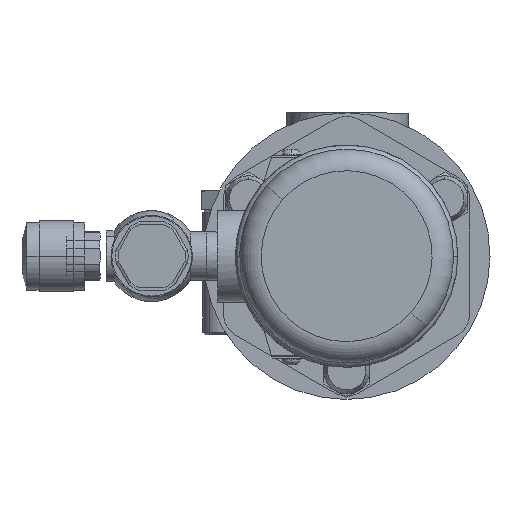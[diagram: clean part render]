
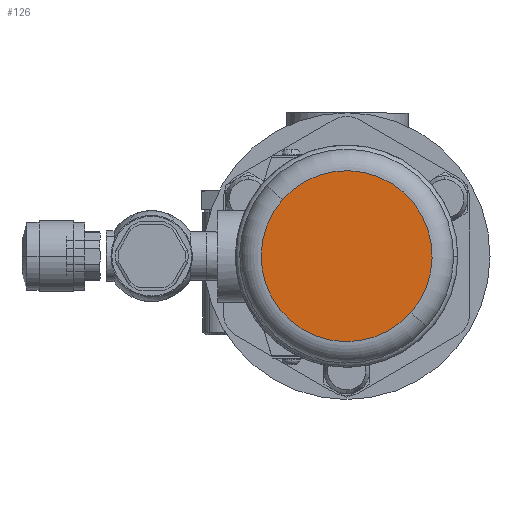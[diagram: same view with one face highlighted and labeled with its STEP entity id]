
A CAD part, left-side view. The second image highlights one B-rep face of the part: STEP entity #126.
In plain terms, the highlighted planar face has unit normal (-1, 0, 0).
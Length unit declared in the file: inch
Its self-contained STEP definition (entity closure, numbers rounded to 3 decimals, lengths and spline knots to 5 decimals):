
#19=CARTESIAN_POINT('',(-0.90551,0.90551,
-1.22672));
#20=DIRECTION('',(-1.,0.,0.));
#21=DIRECTION('',(0.,0.751,0.661));
#22=AXIS2_PLACEMENT_3D('',#19,#20,#21);
#39=CARTESIAN_POINT('',(-0.90551,0.90551,
-1.22672));
#40=DIRECTION('',(1.,0.,0.));
#41=DIRECTION('',(0.,0.751,0.661));
#42=AXIS2_PLACEMENT_3D('',#39,#40,#41);
#53=CARTESIAN_POINT('',(-0.90551,1.61026,
-0.60623));
#54=CARTESIAN_POINT('',(-0.90551,0.20076,
-1.8472));
#55=VERTEX_POINT('',#53);
#56=VERTEX_POINT('',#54);
#116=CARTESIAN_POINT('',(-0.90551,0.90551,
-1.22672));
#117=DIRECTION('',(-1.,0.,0.));
#118=DIRECTION('',(0.,-0.751,-0.661));
#119=AXIS2_PLACEMENT_3D('',#116,#117,#118);
#120=PLANE('',#119);
#121=ORIENTED_EDGE('',*,*,#106,.F.);
#123=ORIENTED_EDGE('',*,*,#122,.T.);
#124=EDGE_LOOP('',(#121,#123));
#125=FACE_OUTER_BOUND('',#124,.F.);
#126=ADVANCED_FACE('',(#125),#120,.T.);
#23=CIRCLE('',#22,0.93898);
#43=CIRCLE('',#42,0.93898);
#106=EDGE_CURVE('',#55,#56,#23,.T.);
#122=EDGE_CURVE('',#55,#56,#43,.T.);
